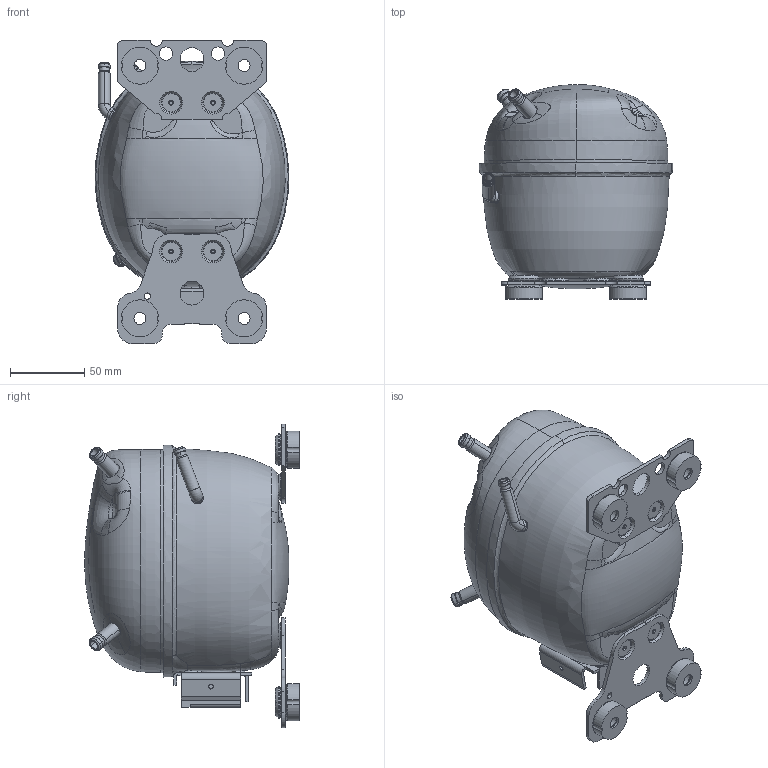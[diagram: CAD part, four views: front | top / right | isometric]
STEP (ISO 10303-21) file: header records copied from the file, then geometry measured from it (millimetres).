
FILE_DESCRIPTION((''),'2;1');
FILE_NAME('101B0025_101B0153_NONE_ASM','2018-11-12T',('CN6198'),(''),'CREO PARAMETRIC BY PTC INC, 2015380','CREO PARAMETRIC BY PTC INC, 2015380','');
FILE_SCHEMA(('CONFIG_CONTROL_DESIGN'));
Products named in the file (21): 101B0401; 117-3617_BODY; 117-3617_PINS; 117-3617_GLASS_FUSED; 117-3617_ASM; 101B6004; 101B0501; 102B1507; 101B0605; 101B0651; 101B6003; 101B0011_ASM; 102B1730BEND2; 101B0601; 101B0025_ASM; 101B0303_AF0; 101B0804_AF0; 101B0804; 101B0153_ASM; 118-3661; 101B0025_101B0153_NONE_ASM
Assembly tree (30 placements, depth 5):
  101B0025_101B0153_NONE_ASM
    101B0025_ASM
      101B0011_ASM
        101B0401
        117-3617_ASM
          117-3617_BODY
          117-3617_PINS  x3
          117-3617_GLASS_FUSED  x3
        101B6004
        101B0501
        102B1507
        101B0605
        101B0651  x4
        101B6003
      102B1730BEND2
      101B0601
    101B0153_ASM
      101B0303_AF0
      101B0804_AF0
      101B0804
    118-3661  x4
Bounding box: 130.31 x 144.19 x 204 mm (x, y, z)
Volume: 274311.9 mm3; surface area: 200048.6 mm2
Topology: 26 solids, 26 shells, 1218 faces, 2964 edges, 1801 vertices
Faces by surface type: bspline 444, cylinder 248, plane 232, cone 137, torus 113, sphere 28, revolution 12, extrusion 4
Entity records: 110898 total; most frequent: CARTESIAN_POINT 88754, ORIENTED_EDGE 5172, DIRECTION 3406, EDGE_CURVE 2586, VERTEX_POINT 1604, AXIS2_PLACEMENT_3D 1367, B_SPLINE_CURVE_WITH_KNOTS 1248, EDGE_LOOP 1134
